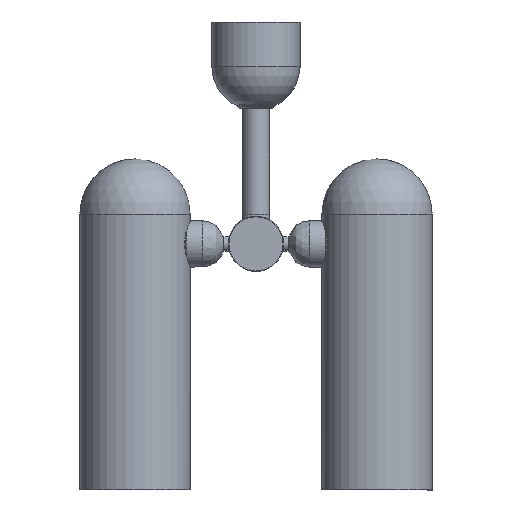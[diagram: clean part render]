
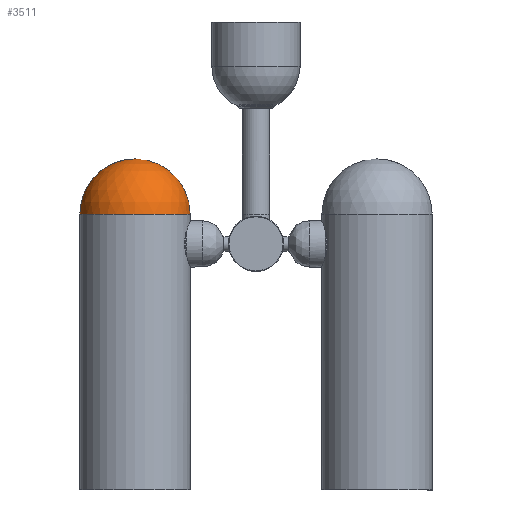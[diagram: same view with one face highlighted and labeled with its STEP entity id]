
A CAD part, front view. The second image highlights one B-rep face of the part: STEP entity #3511.
In plain terms, the highlighted spherical face has radius 50 mm.
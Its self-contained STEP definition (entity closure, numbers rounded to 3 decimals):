
#173=SPHERICAL_SURFACE('',#3901,50.);
#369=CIRCLE('',#3897,50.);
#371=CIRCLE('',#3899,50.);
#372=CIRCLE('',#3902,50.);
#585=FACE_OUTER_BOUND('',#854,.T.);
#854=EDGE_LOOP('',(#2897,#2898,#2899,#2900));
#1607=VERTEX_POINT('',#8289);
#1608=VERTEX_POINT('',#8290);
#1610=VERTEX_POINT('',#8298);
#2090=EDGE_CURVE('',#1607,#1608,#369,.T.);
#2093=EDGE_CURVE('',#1608,#1607,#371,.T.);
#2094=EDGE_CURVE('',#1610,#1608,#372,.T.);
#2897=ORIENTED_EDGE('',*,*,#2090,.T.);
#2898=ORIENTED_EDGE('',*,*,#2094,.F.);
#2899=ORIENTED_EDGE('',*,*,#2094,.T.);
#2900=ORIENTED_EDGE('',*,*,#2093,.T.);
#3511=ADVANCED_FACE('',(#585),#173,.T.);
#3897=AXIS2_PLACEMENT_3D('',#8291,#4656,#4657);
#3899=AXIS2_PLACEMENT_3D('',#8295,#4661,#4662);
#3901=AXIS2_PLACEMENT_3D('',#8297,#4665,#4666);
#3902=AXIS2_PLACEMENT_3D('',#8299,#4667,#4668);
#4656=DIRECTION('center_axis',(0.,0.,
1.));
#4657=DIRECTION('ref_axis',(0.,-1.,0.));
#4661=DIRECTION('center_axis',(0.,0.,
1.));
#4662=DIRECTION('ref_axis',(0.,-1.,0.));
#4665=DIRECTION('center_axis',(0.,0.,1.));
#4666=DIRECTION('ref_axis',(1.,0.,0.));
#4667=DIRECTION('center_axis',(0.,-1.,0.));
#4668=DIRECTION('ref_axis',(-1.,0.,0.));
#8289=CARTESIAN_POINT('',(-109.548,-850.1,250.));
#8290=CARTESIAN_POINT('',(-159.548,-800.1,250.));
#8291=CARTESIAN_POINT('Origin',(-109.548,-800.1,250.));
#8295=CARTESIAN_POINT('Origin',(-109.548,-800.1,250.));
#8297=CARTESIAN_POINT('Origin',(-109.548,-800.1,250.));
#8298=CARTESIAN_POINT('',(-109.548,-800.1,300.));
#8299=CARTESIAN_POINT('Origin',(-109.548,-800.1,250.));
